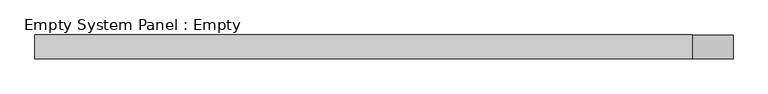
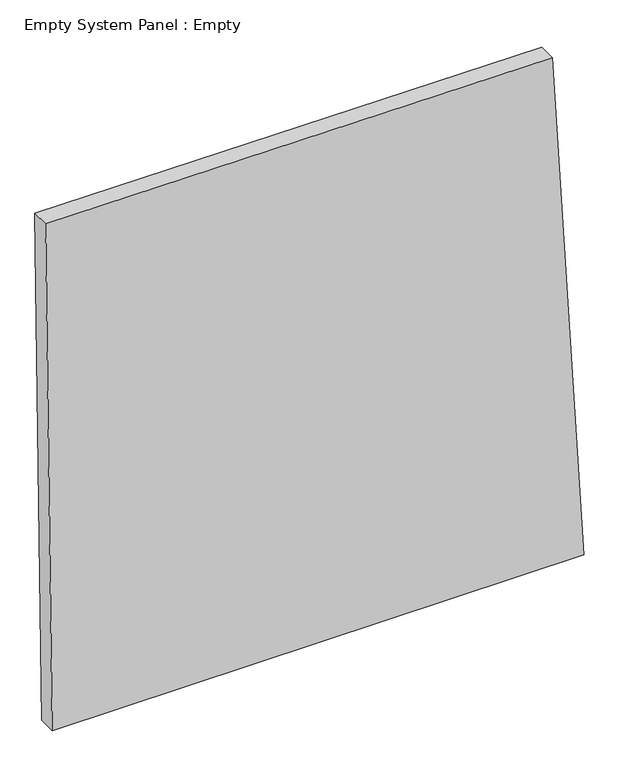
"""IFC4 building model written with IfcOpenShell, lengths in millimetres: plate geometry, Empty System Panel : Empty."""

from ifc_helpers import new_model, si_unit, frame, origin, place, context, project, spatial, polyline, outline, extrude, source, transform, mapped, element, save


def empty_system_panel_empty_a0e2cc6e(model_context):
    return source(origin(), model_context, "Body", "SweptSolid", [
        extrude(outline(polyline([(0.0, -1450.8521189), (0.0, 1487.4046086), (2962.9547168, 1313.1957358), (2973.2508868, -1487.4046086), (0.0, -1450.8521189)])), frame((0.0, -50.8, 0.0), z_axis=(0.0, 1.0, 0.0), x_axis=(0.0, 0.0, 1.0)), (0.0, 0.0, 1.0), 101.6),
    ])


if __name__ == "__main__":
    model = new_model("IFC4")
    model_context = context("Model", 3, world=origin())
    ifc_project = project(units=[si_unit("LENGTHUNIT", "METRE", prefix="MILLI")], contexts=[model_context])
    site = spatial("IfcSite", under=ifc_project)
    building = spatial("IfcBuilding", under=site)
    placement = place(None, origin())
    empty_system_panel_empty_shape = empty_system_panel_empty_a0e2cc6e(model_context)
    element("IfcPlate", 1, ObjectType="Empty System Panel : Empty", at=placement, inside=building, context=model_context, shape_type="MappedRepresentation", body=[
        mapped(empty_system_panel_empty_shape, transform((0.0, 0.0, 0.0), x_axis=(1.0, 0.0, 0.0), y_axis=(0.0, 1.0, 0.0), z_axis=(0.0, 0.0, 1.0))),
    ])
    save(model, "model.ifc")
